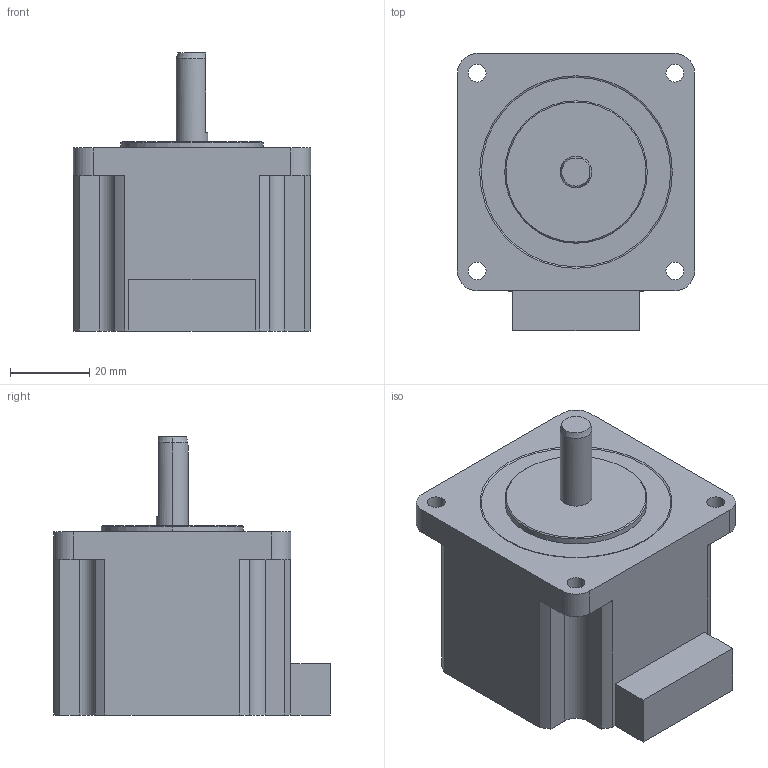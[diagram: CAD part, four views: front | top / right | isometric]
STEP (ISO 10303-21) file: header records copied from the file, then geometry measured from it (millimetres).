
FILE_DESCRIPTION (( 'STEP AP203' ), '1' );
FILE_NAME ('PMSA-U60D1_3D.STEP', '2017-01-31T07:44:14', ( 'SKJ01072' ), ( '' ), 'SwSTEP 2.0', 'SolidWorks 2014', '' );
FILE_SCHEMA (( 'CONFIG_CONTROL_DESIGN' ));
Length unit declared in the file: millimetre
Products named in the file (1): PMSA-U60D1_3D
Bounding box: 60 x 70 x 70.3 mm (x, y, z)
Volume: 155404.4 mm3; surface area: 19501.8 mm2
Topology: 1 solids, 1 shells, 64 faces, 174 edges, 115 vertices
Faces by surface type: plane 29, cylinder 28, cone 7
Entity records: 2152 total; most frequent: CARTESIAN_POINT 378, DIRECTION 369, ORIENTED_EDGE 348, EDGE_CURVE 174, AXIS2_PLACEMENT_3D 134, VERTEX_POINT 115, LINE 101, VECTOR 101
